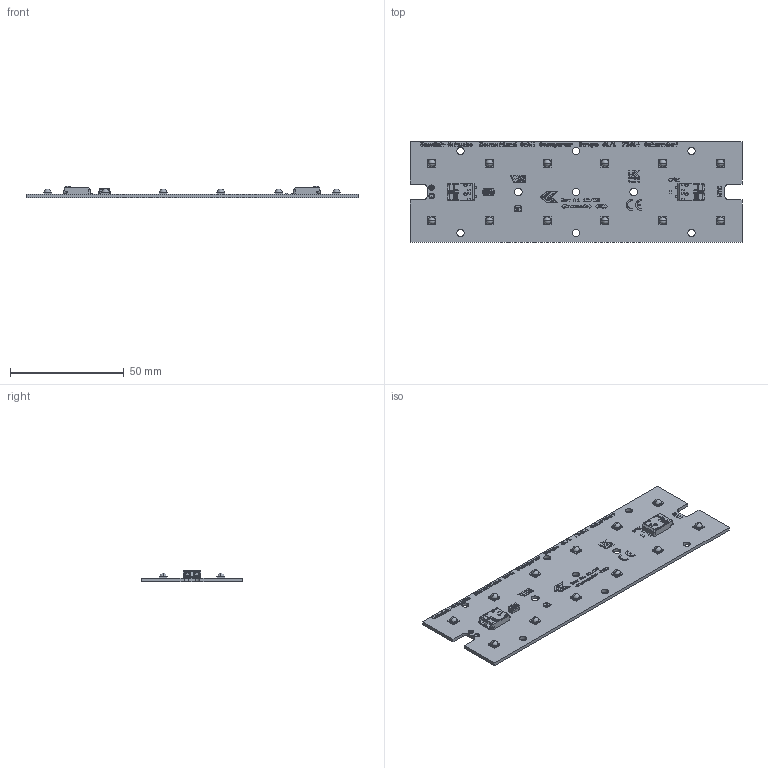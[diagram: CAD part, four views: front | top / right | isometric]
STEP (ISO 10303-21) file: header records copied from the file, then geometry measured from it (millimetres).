
FILE_DESCRIPTION(('Creo Elements/Direct Modeling STEP Export'),'2;1');
FILE_NAME('3D-Model_MSP SC 2R_Z19_3535_T_12_yzz G5.stp','2025-06-18T15:27:50',(''),(''),'PTC Creo Elements/Direct Modeling STEP processor for AP214 (Solid Model)','PTC Creo Elements/Direct Modeling 19.0E 27-Jun-2016 (C) Parametric Technology GmbH','');
FILE_SCHEMA(('AUTOMOTIVE_DESIGN { 1 0 10303 214 1 1 1 1 }'));
Length unit declared in the file: millimetre
Products named in the file (212): p1; 2500-00565C_1.PRT; 2500-00565C-BT_1_1.PRT; 2500-00565C-BT_1_2.PRT; 2500-00565C-BT_1_3.PRT; 2500-00565C-BT_1.ASM; 2500-00565C-SBN_1.PRT; 2500-00565C-SB_1.PRT; 2500-00565C_ASM_1.ASM; 2610-00066-DOME_1.PRT; 2610-00066_ASM_1.ASM; XLAMP_XP-G4.STEP; SMA__DO-214AC_.prt; SMA__DO-214AC_.STEP; Print.48; Print.54; Print.52; Print.56; Print.51; Print.50; Print.47; Print.46; Print.53; Print.49; Print.55; Print.30; Print.33; Print.34; Print.28; Print.31; Print.26; Print.36; Print.32; Print.27; Print.29; Print.35; Print.112; Print.91; Print.90; Print.98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
Assembly tree (205 placements, depth 5):
  p1
  XLAMP_XP-G4.STEP
    2610-00066_ASM_1.ASM
      2610-00066-DOME_1.PRT
      2500-00565C_ASM_1.ASM
        2500-00565C-SB_1.PRT
        2500-00565C-SBN_1.PRT
        2500-00565C-BT_1.ASM
          2500-00565C-BT_1_3.PRT
          2500-00565C-BT_1_2.PRT
          2500-00565C-BT_1_1.PRT
        2500-00565C_1.PRT
  SMA__DO-214AC_.STEP
    SMA__DO-214AC_.prt
  Print1
    Print.5
    Print.9
    Print.3
    Print.19
    Print.20
    Print.1
    Print.16
    Print.18
    Print.10
    Print.15
    Print.4
    Print.11
    Print.13
    Print.2
    Print.8
    Print.21
    Print.17
    Print.7
    Print.6
    Print
    Print.14
    Print.12
    Print.85
    Print.86
    Print.88
    Print.84
    Print.83
    Print.79
    Print.81
    Print.82
    Print.87
    Print.89
    Print.80
    Print.113
    Print.25
    Print.24
    Print.23
    Print.22
    Print.39
    Print.40
    Print.37
    Print.38
    Print.45
    Print.41
    Print.44
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Bounding box: 146 x 44.4 x 4.95 mm (x, y, z)
Volume: 9678.9 mm3; surface area: 15517.5 mm2
Topology: 201 solids, 203 shells, 4388 faces, 11535 edges, 7562 vertices
Faces by surface type: plane 2970, cylinder 941, bspline 198, cone 108, sphere 60, torus 56, extrusion 55
Entity records: 162193 total; most frequent: CARTESIAN_POINT 32815, ORIENTED_EDGE 19936, DIRECTION 18582, EDGE_CURVE 9970, VECTOR 7422, LINE 7367, VERTEX_POINT 6528, AXIS2_PLACEMENT_3D 5580
